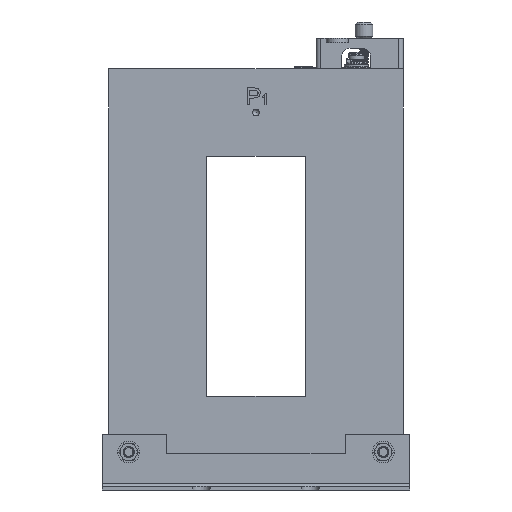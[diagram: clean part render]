
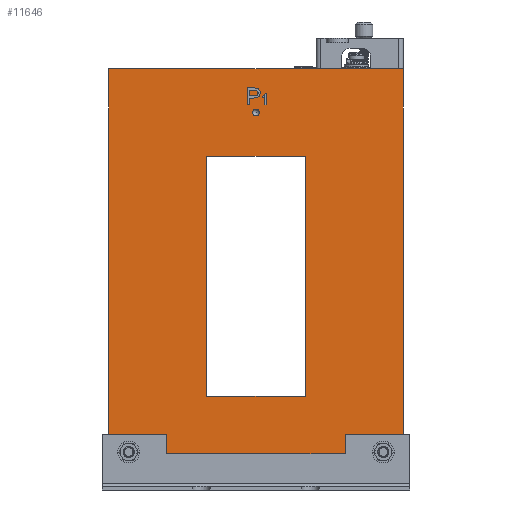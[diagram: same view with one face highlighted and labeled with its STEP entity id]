
A CAD part, left-side view. The second image highlights one B-rep face of the part: STEP entity #11646.
In plain terms, the highlighted planar face has unit normal (-1, 0, 0).
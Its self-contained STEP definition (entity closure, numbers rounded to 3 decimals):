
#293=FACE_BOUND('',#1646,.T.);
#294=FACE_BOUND('',#1647,.T.);
#452=PLANE('',#12615);
#989=FACE_OUTER_BOUND('',#1645,.T.);
#1645=EDGE_LOOP('',(#9373,#9374,#9375,#9376));
#1646=EDGE_LOOP('',(#9377));
#1647=EDGE_LOOP('',(#9378,#9379,#9380,#9381));
#2137=CIRCLE('',#12605,1.536);
#3173=LINE('',#47532,#3883);
#3177=LINE('',#47540,#3887);
#3180=LINE('',#47546,#3890);
#3183=LINE('',#47551,#3893);
#3185=LINE('',#47556,#3895);
#3189=LINE('',#47564,#3899);
#3192=LINE('',#47570,#3902);
#3195=LINE('',#47575,#3905);
#3883=VECTOR('',#14895,1.);
#3887=VECTOR('',#14901,1.);
#3890=VECTOR('',#14906,1.);
#3893=VECTOR('',#14911,1.);
#3895=VECTOR('',#14915,1.);
#3899=VECTOR('',#14921,1.);
#3902=VECTOR('',#14926,1.);
#3905=VECTOR('',#14931,1.);
#4924=VERTEX_POINT('',#47525);
#4926=VERTEX_POINT('',#47530);
#4927=VERTEX_POINT('',#47531);
#4930=VERTEX_POINT('',#47539);
#4932=VERTEX_POINT('',#47545);
#4934=VERTEX_POINT('',#47554);
#4935=VERTEX_POINT('',#47555);
#4938=VERTEX_POINT('',#47563);
#4940=VERTEX_POINT('',#47569);
#6440=EDGE_CURVE('',#4924,#4924,#2137,.T.);
#6442=EDGE_CURVE('',#4926,#4927,#3173,.T.);
#6446=EDGE_CURVE('',#4927,#4930,#3177,.T.);
#6449=EDGE_CURVE('',#4930,#4932,#3180,.T.);
#6452=EDGE_CURVE('',#4932,#4926,#3183,.T.);
#6454=EDGE_CURVE('',#4934,#4935,#3185,.T.);
#6458=EDGE_CURVE('',#4935,#4938,#3189,.T.);
#6461=EDGE_CURVE('',#4938,#4940,#3192,.T.);
#6464=EDGE_CURVE('',#4940,#4934,#3195,.T.);
#9373=ORIENTED_EDGE('',*,*,#6454,.F.);
#9374=ORIENTED_EDGE('',*,*,#6464,.F.);
#9375=ORIENTED_EDGE('',*,*,#6461,.F.);
#9376=ORIENTED_EDGE('',*,*,#6458,.F.);
#9377=ORIENTED_EDGE('',*,*,#6440,.T.);
#9378=ORIENTED_EDGE('',*,*,#6449,.T.);
#9379=ORIENTED_EDGE('',*,*,#6452,.T.);
#9380=ORIENTED_EDGE('',*,*,#6442,.T.);
#9381=ORIENTED_EDGE('',*,*,#6446,.T.);
#11646=ADVANCED_FACE('',(#989,#293,#294),#452,.F.);
#12605=AXIS2_PLACEMENT_3D('',#47526,#14889,#14890);
#12615=AXIS2_PLACEMENT_3D('',#47577,#14933,#14934);
#14889=DIRECTION('center_axis',(1.,0.,0.));
#14890=DIRECTION('ref_axis',(0.,0.,-1.));
#14895=DIRECTION('',(0.,-1.,0.));
#14901=DIRECTION('',(0.,0.,-1.));
#14906=DIRECTION('',(0.,1.,0.));
#14911=DIRECTION('',(0.,0.,1.));
#14915=DIRECTION('',(0.,1.,0.));
#14921=DIRECTION('',(0.,0.,1.));
#14926=DIRECTION('',(0.,-1.,0.));
#14931=DIRECTION('',(0.,0.,-1.));
#14933=DIRECTION('center_axis',(1.,0.,0.));
#14934=DIRECTION('ref_axis',(0.,1.,0.));
#47525=CARTESIAN_POINT('',(-55.,-1634.918,-183.434));
#47526=CARTESIAN_POINT('Origin',(-55.,-1636.454,-183.434));
#47530=CARTESIAN_POINT('',(-55.,-1613.954,-203.463));
#47531=CARTESIAN_POINT('',(-55.,-1658.954,-203.463));
#47532=CARTESIAN_POINT('',(-55.,-1625.204,-203.463));
#47539=CARTESIAN_POINT('',(-55.,-1658.954,-313.463));
#47540=CARTESIAN_POINT('',(-55.,-1658.954,-230.963));
#47545=CARTESIAN_POINT('',(-55.,-1613.954,-313.463));
#47546=CARTESIAN_POINT('',(-55.,-1647.704,-313.463));
#47551=CARTESIAN_POINT('',(-55.,-1613.954,-285.963));
#47554=CARTESIAN_POINT('',(-55.,-1703.954,-353.463));
#47555=CARTESIAN_POINT('',(-55.,-1568.954,-353.463));
#47556=CARTESIAN_POINT('',(-55.,-1703.954,-353.463));
#47563=CARTESIAN_POINT('',(-55.,-1568.954,-163.463));
#47564=CARTESIAN_POINT('',(-55.,-1568.954,-353.463));
#47569=CARTESIAN_POINT('',(-55.,-1703.954,-163.463));
#47570=CARTESIAN_POINT('',(-55.,-1568.954,-163.463));
#47575=CARTESIAN_POINT('',(-55.,-1703.954,-163.463));
#47577=CARTESIAN_POINT('Origin',(-55.,-1636.454,-258.463));
